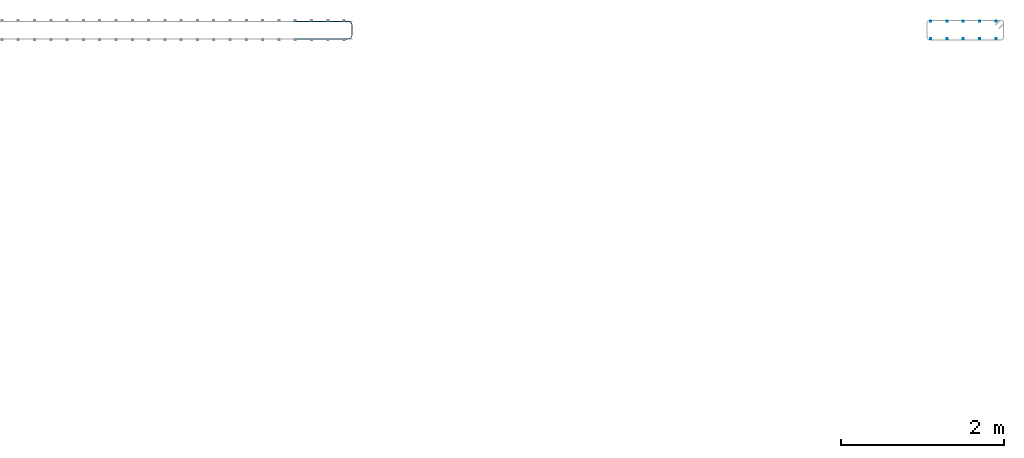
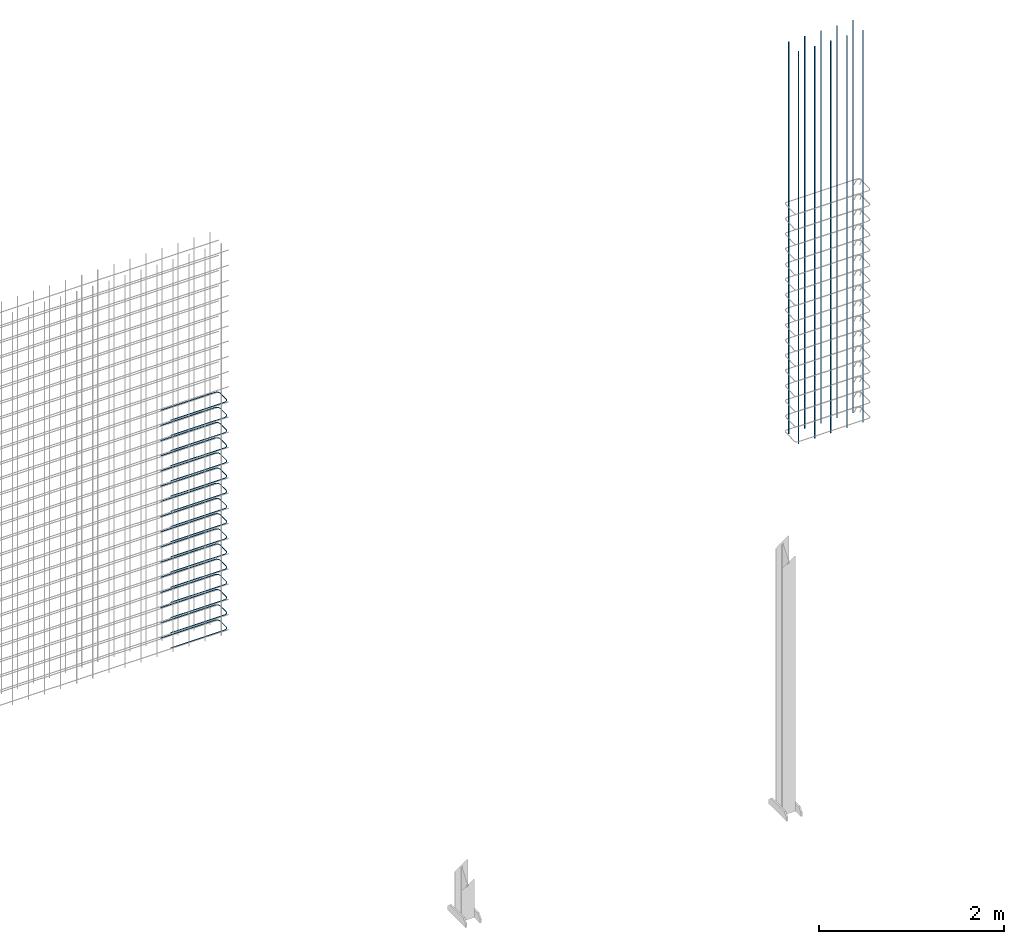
# One storey, part 4 of 4: 3 reinforcing bars.
"""IFC4X3_ADD2 building model written with IfcOpenShell, lengths in millimetres."""

from ifc_helpers import new_model, entity, si_unit, converted_unit, derived_unit, direction, frame, origin, place, context, subcontext, project, spatial, material, type_object, element, save


model = new_model("IFC4X3_ADD2")

# Units and contexts
model_context = context("Model", 3, precision=0.01, world=origin(), true_north=direction((6.123233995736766e-17, 1.0)))
plan_context = context("Plan", 3, precision=0.01, world=origin(), true_north=direction((6.123233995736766e-17, 1.0)))
body_context = subcontext(model_context, "Body", "Model", "MODEL_VIEW")
ifc_project = project(units=[si_unit("LENGTHUNIT", "METRE", prefix="MILLI"), converted_unit("PLANEANGLEUNIT", "DEGREE", entity("IfcPlaneAngleMeasure", 0.017453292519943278), si_unit("PLANEANGLEUNIT", "RADIAN"), dimensions=[0, 0, 0, 0, 0, 0, 0]), si_unit("AREAUNIT", "SQUARE_METRE"), si_unit("VOLUMEUNIT", "CUBIC_METRE"), derived_unit("THERMALTRANSMITTANCEUNIT", [(si_unit("MASSUNIT", "GRAM", prefix="KILO"), 1), (si_unit("THERMODYNAMICTEMPERATUREUNIT", "KELVIN"), -1), (si_unit("TIMEUNIT", "SECOND"), -3)]), derived_unit("USERDEFINED", [(si_unit("MASSUNIT", "GRAM", prefix="KILO"), 1), (si_unit("THERMODYNAMICTEMPERATUREUNIT", "KELVIN"), -1), (si_unit("TIMEUNIT", "SECOND"), -2)]), derived_unit("THERMALRESISTANCEUNIT", [(si_unit("MASSUNIT", "GRAM", prefix="KILO"), -1), (si_unit("TIMEUNIT", "SECOND"), 3), (si_unit("THERMODYNAMICTEMPERATUREUNIT", "KELVIN"), 1)]), si_unit("MASSUNIT", "GRAM", prefix="KILO"), derived_unit("MOMENTOFINERTIAUNIT", [(si_unit("LENGTHUNIT", "METRE"), 4)]), derived_unit("LINEARFORCEUNIT", [(si_unit("MASSUNIT", "GRAM", prefix="KILO"), 1), (si_unit("TIMEUNIT", "SECOND"), -2)]), derived_unit("WARPINGCONSTANTUNIT", [(si_unit("LENGTHUNIT", "METRE"), 6)]), si_unit("PRESSUREUNIT", "PASCAL"), derived_unit("MASSDENSITYUNIT", [(si_unit("MASSUNIT", "GRAM", prefix="KILO"), 1), (si_unit("LENGTHUNIT", "METRE"), -3)]), derived_unit("MODULUSOFELASTICITYUNIT", [(si_unit("MASSUNIT", "GRAM", prefix="KILO"), 1), (si_unit("TIMEUNIT", "SECOND"), -2), (si_unit("LENGTHUNIT", "METRE"), -1)]), derived_unit("THERMALEXPANSIONCOEFFICIENTUNIT", [(si_unit("THERMODYNAMICTEMPERATUREUNIT", "KELVIN"), -1)]), derived_unit("VAPORPERMEABILITYUNIT", [(si_unit("LENGTHUNIT", "METRE"), -1), (si_unit("TIMEUNIT", "SECOND"), 1)]), derived_unit("USERDEFINED", [(si_unit("MASSUNIT", "GRAM", prefix="KILO"), 1), (si_unit("TIMEUNIT", "SECOND"), -3), (si_unit("LENGTHUNIT", "METRE"), 3), (si_unit("ELECTRICCURRENTUNIT", "AMPERE"), -2)]), derived_unit("SPECIFICHEATCAPACITYUNIT", [(si_unit("THERMODYNAMICTEMPERATUREUNIT", "KELVIN"), -1), (si_unit("TIMEUNIT", "SECOND"), -2), (si_unit("LENGTHUNIT", "METRE"), 2)]), derived_unit("THERMALCONDUCTANCEUNIT", [(si_unit("MASSUNIT", "GRAM", prefix="KILO"), 1), (si_unit("THERMODYNAMICTEMPERATUREUNIT", "KELVIN"), -1), (si_unit("TIMEUNIT", "SECOND"), -3), (si_unit("LENGTHUNIT", "METRE"), 1)])], contexts=[model_context, plan_context])

# Site, building, storey
site_placement = place(None, origin())
site = spatial("IfcSite", under=ifc_project, at=site_placement, Name="Default", CompositionType="ELEMENT")
building_placement = place(site_placement, origin())
building = spatial("IfcBuilding", under=site, at=building_placement, Name="Complex structure", CompositionType="ELEMENT")
storey_placement = place(building_placement, frame((0.0, 0.0, -200.0)))
storey = spatial("IfcBuildingStorey", under=building, at=storey_placement, Name="Level -01", CompositionType="ELEMENT", Elevation=-200.0)

# Reinforcing bars
ifc_material = material(Name="Steel Rebar - B500A, B or C", Category="Unassigned")
reinforcing_bar_type_1 = type_object("IfcReinforcingBarType", Name="Rebar Bar:12mm", PredefinedType="NOTDEFINED")
reinforcing_bar_1_placement = place(storey_placement, origin())
element("IfcReinforcingBar", 1, at=reinforcing_bar_1_placement, inside=storey, type_object=reinforcing_bar_type_1, material=ifc_material, Name="Rebar Bar:12mm : Shape 00", ObjectType="Rebar Bar:12mm", context=body_context, shape_type="AdvancedSweptSolid", body=[
    entity("IfcSweptDiskSolid", entity("IfcCompositeCurve", [entity("IfcCompositeCurveSegment", "CONTINUOUS", True, entity("IfcPolyline", [entity("IfcCartesianPoint", [-1568.221550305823, 4630.133296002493, 9.0]), entity("IfcCartesianPoint", [-1568.221550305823, 4630.133296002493, 5175.0])]))], False), 6.0, None, 0.0, 1.0),
    entity("IfcSweptDiskSolid", entity("IfcCompositeCurve", [entity("IfcCompositeCurveSegment", "CONTINUOUS", True, entity("IfcPolyline", [entity("IfcCartesianPoint", [-1368.221550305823, 4630.133296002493, 9.0]), entity("IfcCartesianPoint", [-1368.221550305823, 4630.133296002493, 5175.0])]))], False), 6.0, None, 0.0, 1.0),
    entity("IfcSweptDiskSolid", entity("IfcCompositeCurve", [entity("IfcCompositeCurveSegment", "CONTINUOUS", True, entity("IfcPolyline", [entity("IfcCartesianPoint", [-1168.221550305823, 4630.133296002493, 9.0]), entity("IfcCartesianPoint", [-1168.221550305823, 4630.133296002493, 5175.0])]))], False), 6.0, None, 0.0, 1.0),
    entity("IfcSweptDiskSolid", entity("IfcCompositeCurve", [entity("IfcCompositeCurveSegment", "CONTINUOUS", True, entity("IfcPolyline", [entity("IfcCartesianPoint", [-968.221550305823, 4630.133296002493, 9.0]), entity("IfcCartesianPoint", [-968.221550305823, 4630.133296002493, 5175.0])]))], False), 6.0, None, 0.0, 1.0),
    entity("IfcSweptDiskSolid", entity("IfcCompositeCurve", [entity("IfcCompositeCurveSegment", "CONTINUOUS", True, entity("IfcPolyline", [entity("IfcCartesianPoint", [-768.221550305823, 4630.133296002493, 9.0]), entity("IfcCartesianPoint", [-768.221550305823, 4630.133296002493, 5175.0])]))], False), 6.0, None, 0.0, 1.0),
])
reinforcing_bar_2_placement = place(storey_placement, origin())
element("IfcReinforcingBar", 2, at=reinforcing_bar_2_placement, inside=storey, type_object=reinforcing_bar_type_1, material=ifc_material, Name="Rebar Bar:12mm : Shape 00", ObjectType="Rebar Bar:12mm", context=body_context, shape_type="AdvancedSweptSolid", body=[
    entity("IfcSweptDiskSolid", entity("IfcCompositeCurve", [entity("IfcCompositeCurveSegment", "CONTINUOUS", True, entity("IfcPolyline", [entity("IfcCartesianPoint", [-1568.2215503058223, 4844.133296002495, 9.0]), entity("IfcCartesianPoint", [-1568.2215503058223, 4844.133296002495, 5175.0])]))], False), 6.0, None, 0.0, 1.0),
    entity("IfcSweptDiskSolid", entity("IfcCompositeCurve", [entity("IfcCompositeCurveSegment", "CONTINUOUS", True, entity("IfcPolyline", [entity("IfcCartesianPoint", [-1368.2215503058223, 4844.133296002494, 9.0]), entity("IfcCartesianPoint", [-1368.2215503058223, 4844.133296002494, 5175.0])]))], False), 6.0, None, 0.0, 1.0),
    entity("IfcSweptDiskSolid", entity("IfcCompositeCurve", [entity("IfcCompositeCurveSegment", "CONTINUOUS", True, entity("IfcPolyline", [entity("IfcCartesianPoint", [-1168.2215503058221, 4844.133296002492, 9.0]), entity("IfcCartesianPoint", [-1168.2215503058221, 4844.133296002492, 5175.0])]))], False), 6.0, None, 0.0, 1.0),
    entity("IfcSweptDiskSolid", entity("IfcCompositeCurve", [entity("IfcCompositeCurveSegment", "CONTINUOUS", True, entity("IfcPolyline", [entity("IfcCartesianPoint", [-968.2215503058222, 4844.133296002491, 9.0]), entity("IfcCartesianPoint", [-968.2215503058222, 4844.133296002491, 5175.0])]))], False), 6.0, None, 0.0, 1.0),
    entity("IfcSweptDiskSolid", entity("IfcCompositeCurve", [entity("IfcCompositeCurveSegment", "CONTINUOUS", True, entity("IfcPolyline", [entity("IfcCartesianPoint", [-768.2215503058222, 4844.133296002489, 9.0]), entity("IfcCartesianPoint", [-768.2215503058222, 4844.133296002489, 5175.0])]))], False), 6.0, None, 0.0, 1.0),
])
reinforcing_bar_type_2 = type_object("IfcReinforcingBarType", Name="Rebar Bar:10mm", PredefinedType="NOTDEFINED")
reinforcing_bar_3_placement = place(storey_placement, origin())
ifc_direction_1 = entity("IfcDirection", [0.0, 0.0, -1.0])
ifc_direction_2 = entity("IfcDirection", [0.0, 0.0, -1.0])
ifc_direction_3 = entity("IfcDirection", [0.0, 0.0, -1.0])
ifc_direction_4 = entity("IfcDirection", [0.0, 0.0, -1.0])
ifc_direction_5 = entity("IfcDirection", [0.0, 0.0, -1.0])
ifc_direction_6 = entity("IfcDirection", [0.0, 0.0, -1.0])
ifc_direction_7 = entity("IfcDirection", [0.0, 0.0, -1.0])
ifc_direction_8 = entity("IfcDirection", [0.0, 0.0, -1.0])
ifc_direction_9 = entity("IfcDirection", [0.0, 0.0, -1.0])
ifc_direction_10 = entity("IfcDirection", [0.0, 0.0, -1.0])
ifc_direction_11 = entity("IfcDirection", [0.0, 0.0, -1.0])
ifc_direction_12 = entity("IfcDirection", [0.0, 0.0, -1.0])
ifc_direction_13 = entity("IfcDirection", [0.0, 0.0, -1.0])
ifc_direction_14 = entity("IfcDirection", [0.0, 0.0, -1.0])
ifc_direction_15 = entity("IfcDirection", [0.0, 0.0, -1.0])
ifc_direction_16 = entity("IfcDirection", [0.0, 0.0, -1.0])
element("IfcReinforcingBar", 3, at=reinforcing_bar_3_placement, inside=storey, type_object=reinforcing_bar_type_2, material=ifc_material, Name="Rebar Bar:10mm : Shape 21", ObjectType="Rebar Bar:10mm", context=body_context, shape_type="AdvancedSweptSolid", body=[
    entity("IfcSweptDiskSolid", entity("IfcCompositeCurve", [entity("IfcCompositeCurveSegment", "CONTINUOUS", True, entity("IfcPolyline", [entity("IfcCartesianPoint", [-9390.221550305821, 4844.133296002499, 3058.0]), entity("IfcCartesianPoint", [-8720.221550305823, 4844.133296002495, 3058.0])])), entity("IfcCompositeCurveSegment", "CONTINUOUS", True, entity("IfcTrimmedCurve", entity("IfcCircle", entity("IfcAxis2Placement3D", entity("IfcCartesianPoint", [-8720.221550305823, 4799.133296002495, 3058.0]), ifc_direction_1, entity("IfcDirection", [1.0, 0.0, 0.0])), 45.0), [entity("IfcParameterValue", 269.9999999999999)], [entity("IfcParameterValue", 360.00000000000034)], True, "PARAMETER")), entity("IfcCompositeCurveSegment", "CONTINUOUS", True, entity("IfcPolyline", [entity("IfcCartesianPoint", [-8675.221550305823, 4799.133296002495, 3058.0]), entity("IfcCartesianPoint", [-8675.221550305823, 4675.133296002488, 3058.0])])), entity("IfcCompositeCurveSegment", "CONTINUOUS", True, entity("IfcTrimmedCurve", entity("IfcCircle", entity("IfcAxis2Placement3D", entity("IfcCartesianPoint", [-8720.221550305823, 4675.133296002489, 3058.0]), ifc_direction_1, entity("IfcDirection", [0.0, -1.0, 0.0])), 45.0), [entity("IfcParameterValue", 269.9999999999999)], [entity("IfcParameterValue", 360.00000000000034)], True, "PARAMETER")), entity("IfcCompositeCurveSegment", "CONTINUOUS", True, entity("IfcPolyline", [entity("IfcCartesianPoint", [-8720.221550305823, 4630.133296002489, 3058.0]), entity("IfcCartesianPoint", [-9390.221550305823, 4630.133296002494, 3058.0])]))], False), 5.0, None, 0.0, 183.00000000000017),
    entity("IfcSweptDiskSolid", entity("IfcCompositeCurve", [entity("IfcCompositeCurveSegment", "CONTINUOUS", True, entity("IfcPolyline", [entity("IfcCartesianPoint", [-9390.221550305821, 4844.133296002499, 2858.0]), entity("IfcCartesianPoint", [-8720.221550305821, 4844.133296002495, 2858.0])])), entity("IfcCompositeCurveSegment", "CONTINUOUS", True, entity("IfcTrimmedCurve", entity("IfcCircle", entity("IfcAxis2Placement3D", entity("IfcCartesianPoint", [-8720.221550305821, 4799.133296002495, 2858.0]), ifc_direction_2, entity("IfcDirection", [1.0, 0.0, 0.0])), 45.0), [entity("IfcParameterValue", 269.9999999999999)], [entity("IfcParameterValue", 360.00000000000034)], True, "PARAMETER")), entity("IfcCompositeCurveSegment", "CONTINUOUS", True, entity("IfcPolyline", [entity("IfcCartesianPoint", [-8675.221550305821, 4799.133296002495, 2858.0]), entity("IfcCartesianPoint", [-8675.221550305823, 4675.133296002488, 2858.0])])), entity("IfcCompositeCurveSegment", "CONTINUOUS", True, entity("IfcTrimmedCurve", entity("IfcCircle", entity("IfcAxis2Placement3D", entity("IfcCartesianPoint", [-8720.221550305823, 4675.133296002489, 2858.0]), ifc_direction_2, entity("IfcDirection", [0.0, -1.0, 0.0])), 45.0), [entity("IfcParameterValue", 269.9999999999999)], [entity("IfcParameterValue", 360.00000000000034)], True, "PARAMETER")), entity("IfcCompositeCurveSegment", "CONTINUOUS", True, entity("IfcPolyline", [entity("IfcCartesianPoint", [-8720.221550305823, 4630.133296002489, 2858.0]), entity("IfcCartesianPoint", [-9390.221550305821, 4630.133296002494, 2858.0])]))], False), 5.0, None, 0.0, 183.00000000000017),
    entity("IfcSweptDiskSolid", entity("IfcCompositeCurve", [entity("IfcCompositeCurveSegment", "CONTINUOUS", True, entity("IfcPolyline", [entity("IfcCartesianPoint", [-9390.221550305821, 4844.133296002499, 2658.0]), entity("IfcCartesianPoint", [-8720.221550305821, 4844.133296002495, 2658.0])])), entity("IfcCompositeCurveSegment", "CONTINUOUS", True, entity("IfcTrimmedCurve", entity("IfcCircle", entity("IfcAxis2Placement3D", entity("IfcCartesianPoint", [-8720.221550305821, 4799.133296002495, 2658.0]), ifc_direction_3, entity("IfcDirection", [1.0, 0.0, 0.0])), 45.0), [entity("IfcParameterValue", 269.9999999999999)], [entity("IfcParameterValue", 360.00000000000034)], True, "PARAMETER")), entity("IfcCompositeCurveSegment", "CONTINUOUS", True, entity("IfcPolyline", [entity("IfcCartesianPoint", [-8675.221550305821, 4799.133296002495, 2658.0]), entity("IfcCartesianPoint", [-8675.221550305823, 4675.133296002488, 2658.0])])), entity("IfcCompositeCurveSegment", "CONTINUOUS", True, entity("IfcTrimmedCurve", entity("IfcCircle", entity("IfcAxis2Placement3D", entity("IfcCartesianPoint", [-8720.221550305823, 4675.133296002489, 2658.0]), ifc_direction_3, entity("IfcDirection", [0.0, -1.0, 0.0])), 45.0), [entity("IfcParameterValue", 269.9999999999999)], [entity("IfcParameterValue", 360.00000000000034)], True, "PARAMETER")), entity("IfcCompositeCurveSegment", "CONTINUOUS", True, entity("IfcPolyline", [entity("IfcCartesianPoint", [-8720.221550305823, 4630.133296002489, 2658.0]), entity("IfcCartesianPoint", [-9390.221550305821, 4630.133296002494, 2658.0])]))], False), 5.0, None, 0.0, 183.00000000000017),
    entity("IfcSweptDiskSolid", entity("IfcCompositeCurve", [entity("IfcCompositeCurveSegment", "CONTINUOUS", True, entity("IfcPolyline", [entity("IfcCartesianPoint", [-9390.22155030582, 4844.133296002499, 2458.0]), entity("IfcCartesianPoint", [-8720.22155030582, 4844.133296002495, 2458.0])])), entity("IfcCompositeCurveSegment", "CONTINUOUS", True, entity("IfcTrimmedCurve", entity("IfcCircle", entity("IfcAxis2Placement3D", entity("IfcCartesianPoint", [-8720.22155030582, 4799.133296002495, 2458.0]), ifc_direction_4, entity("IfcDirection", [1.0, 0.0, 0.0])), 45.0), [entity("IfcParameterValue", 269.9999999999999)], [entity("IfcParameterValue", 360.00000000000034)], True, "PARAMETER")), entity("IfcCompositeCurveSegment", "CONTINUOUS", True, entity("IfcPolyline", [entity("IfcCartesianPoint", [-8675.221550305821, 4799.133296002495, 2458.0]), entity("IfcCartesianPoint", [-8675.221550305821, 4675.133296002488, 2458.0])])), entity("IfcCompositeCurveSegment", "CONTINUOUS", True, entity("IfcTrimmedCurve", entity("IfcCircle", entity("IfcAxis2Placement3D", entity("IfcCartesianPoint", [-8720.221550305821, 4675.133296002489, 2458.0]), ifc_direction_4, entity("IfcDirection", [0.0, -1.0, 0.0])), 45.0), [entity("IfcParameterValue", 269.9999999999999)], [entity("IfcParameterValue", 360.00000000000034)], True, "PARAMETER")), entity("IfcCompositeCurveSegment", "CONTINUOUS", True, entity("IfcPolyline", [entity("IfcCartesianPoint", [-8720.221550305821, 4630.133296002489, 2458.0]), entity("IfcCartesianPoint", [-9390.221550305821, 4630.133296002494, 2458.0])]))], False), 5.0, None, 0.0, 183.00000000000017),
    entity("IfcSweptDiskSolid", entity("IfcCompositeCurve", [entity("IfcCompositeCurveSegment", "CONTINUOUS", True, entity("IfcPolyline", [entity("IfcCartesianPoint", [-9390.221550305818, 4844.133296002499, 2258.0]), entity("IfcCartesianPoint", [-8720.22155030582, 4844.133296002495, 2258.0])])), entity("IfcCompositeCurveSegment", "CONTINUOUS", True, entity("IfcTrimmedCurve", entity("IfcCircle", entity("IfcAxis2Placement3D", entity("IfcCartesianPoint", [-8720.22155030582, 4799.133296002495, 2258.0]), ifc_direction_5, entity("IfcDirection", [1.0, 0.0, 0.0])), 45.0), [entity("IfcParameterValue", 269.9999999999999)], [entity("IfcParameterValue", 360.00000000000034)], True, "PARAMETER")), entity("IfcCompositeCurveSegment", "CONTINUOUS", True, entity("IfcPolyline", [entity("IfcCartesianPoint", [-8675.22155030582, 4799.133296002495, 2258.0]), entity("IfcCartesianPoint", [-8675.221550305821, 4675.133296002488, 2258.0])])), entity("IfcCompositeCurveSegment", "CONTINUOUS", True, entity("IfcTrimmedCurve", entity("IfcCircle", entity("IfcAxis2Placement3D", entity("IfcCartesianPoint", [-8720.22155030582, 4675.133296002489, 2258.0]), ifc_direction_5, entity("IfcDirection", [0.0, -1.0, 0.0])), 45.0), [entity("IfcParameterValue", 269.9999999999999)], [entity("IfcParameterValue", 360.00000000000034)], True, "PARAMETER")), entity("IfcCompositeCurveSegment", "CONTINUOUS", True, entity("IfcPolyline", [entity("IfcCartesianPoint", [-8720.221550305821, 4630.133296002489, 2258.0]), entity("IfcCartesianPoint", [-9390.22155030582, 4630.133296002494, 2258.0])]))], False), 5.0, None, 0.0, 183.00000000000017),
    entity("IfcSweptDiskSolid", entity("IfcCompositeCurve", [entity("IfcCompositeCurveSegment", "CONTINUOUS", True, entity("IfcPolyline", [entity("IfcCartesianPoint", [-9390.221550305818, 4844.133296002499, 2058.0]), entity("IfcCartesianPoint", [-8720.22155030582, 4844.133296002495, 2058.0])])), entity("IfcCompositeCurveSegment", "CONTINUOUS", True, entity("IfcTrimmedCurve", entity("IfcCircle", entity("IfcAxis2Placement3D", entity("IfcCartesianPoint", [-8720.22155030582, 4799.133296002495, 2058.0]), ifc_direction_6, entity("IfcDirection", [1.0, 0.0, 0.0])), 45.0), [entity("IfcParameterValue", 269.9999999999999)], [entity("IfcParameterValue", 360.00000000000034)], True, "PARAMETER")), entity("IfcCompositeCurveSegment", "CONTINUOUS", True, entity("IfcPolyline", [entity("IfcCartesianPoint", [-8675.22155030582, 4799.133296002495, 2058.0]), entity("IfcCartesianPoint", [-8675.221550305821, 4675.133296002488, 2058.0])])), entity("IfcCompositeCurveSegment", "CONTINUOUS", True, entity("IfcTrimmedCurve", entity("IfcCircle", entity("IfcAxis2Placement3D", entity("IfcCartesianPoint", [-8720.22155030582, 4675.133296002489, 2058.0]), ifc_direction_6, entity("IfcDirection", [0.0, -1.0, 0.0])), 45.0), [entity("IfcParameterValue", 269.9999999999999)], [entity("IfcParameterValue", 360.00000000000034)], True, "PARAMETER")), entity("IfcCompositeCurveSegment", "CONTINUOUS", True, entity("IfcPolyline", [entity("IfcCartesianPoint", [-8720.221550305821, 4630.133296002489, 2058.0]), entity("IfcCartesianPoint", [-9390.22155030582, 4630.133296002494, 2058.0])]))], False), 5.0, None, 0.0, 183.00000000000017),
    entity("IfcSweptDiskSolid", entity("IfcCompositeCurve", [entity("IfcCompositeCurveSegment", "CONTINUOUS", True, entity("IfcPolyline", [entity("IfcCartesianPoint", [-9390.221550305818, 4844.133296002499, 1858.0]), entity("IfcCartesianPoint", [-8720.221550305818, 4844.133296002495, 1858.0])])), entity("IfcCompositeCurveSegment", "CONTINUOUS", True, entity("IfcTrimmedCurve", entity("IfcCircle", entity("IfcAxis2Placement3D", entity("IfcCartesianPoint", [-8720.221550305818, 4799.133296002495, 1858.0]), ifc_direction_7, entity("IfcDirection", [1.0, 0.0, 0.0])), 45.0), [entity("IfcParameterValue", 269.9999999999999)], [entity("IfcParameterValue", 360.00000000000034)], True, "PARAMETER")), entity("IfcCompositeCurveSegment", "CONTINUOUS", True, entity("IfcPolyline", [entity("IfcCartesianPoint", [-8675.221550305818, 4799.133296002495, 1858.0]), entity("IfcCartesianPoint", [-8675.22155030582, 4675.133296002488, 1858.0])])), entity("IfcCompositeCurveSegment", "CONTINUOUS", True, entity("IfcTrimmedCurve", entity("IfcCircle", entity("IfcAxis2Placement3D", entity("IfcCartesianPoint", [-8720.22155030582, 4675.133296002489, 1858.0]), ifc_direction_7, entity("IfcDirection", [0.0, -1.0, 0.0])), 45.0), [entity("IfcParameterValue", 269.9999999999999)], [entity("IfcParameterValue", 360.00000000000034)], True, "PARAMETER")), entity("IfcCompositeCurveSegment", "CONTINUOUS", True, entity("IfcPolyline", [entity("IfcCartesianPoint", [-8720.22155030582, 4630.133296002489, 1858.0]), entity("IfcCartesianPoint", [-9390.221550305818, 4630.133296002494, 1858.0])]))], False), 5.0, None, 0.0, 183.00000000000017),
    entity("IfcSweptDiskSolid", entity("IfcCompositeCurve", [entity("IfcCompositeCurveSegment", "CONTINUOUS", True, entity("IfcPolyline", [entity("IfcCartesianPoint", [-9390.221550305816, 4844.133296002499, 1658.0]), entity("IfcCartesianPoint", [-8720.221550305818, 4844.133296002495, 1658.0])])), entity("IfcCompositeCurveSegment", "CONTINUOUS", True, entity("IfcTrimmedCurve", entity("IfcCircle", entity("IfcAxis2Placement3D", entity("IfcCartesianPoint", [-8720.221550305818, 4799.133296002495, 1658.0]), ifc_direction_8, entity("IfcDirection", [1.0, 0.0, 0.0])), 45.0), [entity("IfcParameterValue", 269.9999999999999)], [entity("IfcParameterValue", 360.00000000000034)], True, "PARAMETER")), entity("IfcCompositeCurveSegment", "CONTINUOUS", True, entity("IfcPolyline", [entity("IfcCartesianPoint", [-8675.221550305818, 4799.133296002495, 1658.0]), entity("IfcCartesianPoint", [-8675.221550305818, 4675.133296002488, 1658.0])])), entity("IfcCompositeCurveSegment", "CONTINUOUS", True, entity("IfcTrimmedCurve", entity("IfcCircle", entity("IfcAxis2Placement3D", entity("IfcCartesianPoint", [-8720.221550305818, 4675.133296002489, 1658.0]), ifc_direction_8, entity("IfcDirection", [0.0, -1.0, 0.0])), 45.0), [entity("IfcParameterValue", 269.9999999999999)], [entity("IfcParameterValue", 360.00000000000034)], True, "PARAMETER")), entity("IfcCompositeCurveSegment", "CONTINUOUS", True, entity("IfcPolyline", [entity("IfcCartesianPoint", [-8720.22155030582, 4630.133296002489, 1658.0]), entity("IfcCartesianPoint", [-9390.221550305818, 4630.133296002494, 1658.0])]))], False), 5.0, None, 0.0, 183.00000000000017),
    entity("IfcSweptDiskSolid", entity("IfcCompositeCurve", [entity("IfcCompositeCurveSegment", "CONTINUOUS", True, entity("IfcPolyline", [entity("IfcCartesianPoint", [-9390.221550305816, 4844.133296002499, 1458.0]), entity("IfcCartesianPoint", [-8720.221550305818, 4844.133296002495, 1458.0])])), entity("IfcCompositeCurveSegment", "CONTINUOUS", True, entity("IfcTrimmedCurve", entity("IfcCircle", entity("IfcAxis2Placement3D", entity("IfcCartesianPoint", [-8720.221550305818, 4799.133296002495, 1458.0]), ifc_direction_9, entity("IfcDirection", [1.0, 0.0, 0.0])), 45.0), [entity("IfcParameterValue", 269.9999999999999)], [entity("IfcParameterValue", 360.00000000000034)], True, "PARAMETER")), entity("IfcCompositeCurveSegment", "CONTINUOUS", True, entity("IfcPolyline", [entity("IfcCartesianPoint", [-8675.221550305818, 4799.133296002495, 1458.0]), entity("IfcCartesianPoint", [-8675.221550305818, 4675.133296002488, 1458.0])])), entity("IfcCompositeCurveSegment", "CONTINUOUS", True, entity("IfcTrimmedCurve", entity("IfcCircle", entity("IfcAxis2Placement3D", entity("IfcCartesianPoint", [-8720.221550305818, 4675.133296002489, 1458.0]), ifc_direction_9, entity("IfcDirection", [0.0, -1.0, 0.0])), 45.0), [entity("IfcParameterValue", 269.9999999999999)], [entity("IfcParameterValue", 360.00000000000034)], True, "PARAMETER")), entity("IfcCompositeCurveSegment", "CONTINUOUS", True, entity("IfcPolyline", [entity("IfcCartesianPoint", [-8720.22155030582, 4630.133296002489, 1458.0]), entity("IfcCartesianPoint", [-9390.221550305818, 4630.133296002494, 1458.0])]))], False), 5.0, None, 0.0, 183.00000000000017),
    entity("IfcSweptDiskSolid", entity("IfcCompositeCurve", [entity("IfcCompositeCurveSegment", "CONTINUOUS", True, entity("IfcPolyline", [entity("IfcCartesianPoint", [-9390.221550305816, 4844.133296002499, 1258.0]), entity("IfcCartesianPoint", [-8720.221550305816, 4844.133296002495, 1258.0])])), entity("IfcCompositeCurveSegment", "CONTINUOUS", True, entity("IfcTrimmedCurve", entity("IfcCircle", entity("IfcAxis2Placement3D", entity("IfcCartesianPoint", [-8720.221550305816, 4799.133296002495, 1258.0]), ifc_direction_10, entity("IfcDirection", [1.0, 0.0, 0.0])), 45.0), [entity("IfcParameterValue", 269.9999999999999)], [entity("IfcParameterValue", 360.00000000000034)], True, "PARAMETER")), entity("IfcCompositeCurveSegment", "CONTINUOUS", True, entity("IfcPolyline", [entity("IfcCartesianPoint", [-8675.221550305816, 4799.133296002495, 1258.0]), entity("IfcCartesianPoint", [-8675.221550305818, 4675.133296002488, 1258.0])])), entity("IfcCompositeCurveSegment", "CONTINUOUS", True, entity("IfcTrimmedCurve", entity("IfcCircle", entity("IfcAxis2Placement3D", entity("IfcCartesianPoint", [-8720.221550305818, 4675.133296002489, 1258.0]), ifc_direction_10, entity("IfcDirection", [0.0, -1.0, 0.0])), 45.0), [entity("IfcParameterValue", 269.9999999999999)], [entity("IfcParameterValue", 360.00000000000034)], True, "PARAMETER")), entity("IfcCompositeCurveSegment", "CONTINUOUS", True, entity("IfcPolyline", [entity("IfcCartesianPoint", [-8720.221550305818, 4630.133296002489, 1258.0]), entity("IfcCartesianPoint", [-9390.221550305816, 4630.133296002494, 1258.0])]))], False), 5.0, None, 0.0, 183.00000000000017),
    entity("IfcSweptDiskSolid", entity("IfcCompositeCurve", [entity("IfcCompositeCurveSegment", "CONTINUOUS", True, entity("IfcPolyline", [entity("IfcCartesianPoint", [-9390.221550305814, 4844.133296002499, 1058.0]), entity("IfcCartesianPoint", [-8720.221550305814, 4844.133296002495, 1058.0])])), entity("IfcCompositeCurveSegment", "CONTINUOUS", True, entity("IfcTrimmedCurve", entity("IfcCircle", entity("IfcAxis2Placement3D", entity("IfcCartesianPoint", [-8720.221550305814, 4799.133296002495, 1058.0]), ifc_direction_11, entity("IfcDirection", [1.0, 0.0, 0.0])), 45.0), [entity("IfcParameterValue", 269.9999999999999)], [entity("IfcParameterValue", 360.00000000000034)], True, "PARAMETER")), entity("IfcCompositeCurveSegment", "CONTINUOUS", True, entity("IfcPolyline", [entity("IfcCartesianPoint", [-8675.221550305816, 4799.133296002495, 1058.0]), entity("IfcCartesianPoint", [-8675.221550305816, 4675.133296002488, 1058.0])])), entity("IfcCompositeCurveSegment", "CONTINUOUS", True, entity("IfcTrimmedCurve", entity("IfcCircle", entity("IfcAxis2Placement3D", entity("IfcCartesianPoint", [-8720.221550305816, 4675.133296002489, 1058.0]), ifc_direction_11, entity("IfcDirection", [0.0, -1.0, 0.0])), 45.0), [entity("IfcParameterValue", 269.9999999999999)], [entity("IfcParameterValue", 360.00000000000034)], True, "PARAMETER")), entity("IfcCompositeCurveSegment", "CONTINUOUS", True, entity("IfcPolyline", [entity("IfcCartesianPoint", [-8720.221550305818, 4630.133296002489, 1058.0]), entity("IfcCartesianPoint", [-9390.221550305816, 4630.133296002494, 1058.0])]))], False), 5.0, None, 0.0, 183.00000000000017),
    entity("IfcSweptDiskSolid", entity("IfcCompositeCurve", [entity("IfcCompositeCurveSegment", "CONTINUOUS", True, entity("IfcPolyline", [entity("IfcCartesianPoint", [-9390.221550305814, 4844.133296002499, 858.0]), entity("IfcCartesianPoint", [-8720.221550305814, 4844.133296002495, 858.0])])), entity("IfcCompositeCurveSegment", "CONTINUOUS", True, entity("IfcTrimmedCurve", entity("IfcCircle", entity("IfcAxis2Placement3D", entity("IfcCartesianPoint", [-8720.221550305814, 4799.133296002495, 858.0]), ifc_direction_12, entity("IfcDirection", [1.0, 0.0, 0.0])), 45.0), [entity("IfcParameterValue", 269.9999999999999)], [entity("IfcParameterValue", 360.00000000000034)], True, "PARAMETER")), entity("IfcCompositeCurveSegment", "CONTINUOUS", True, entity("IfcPolyline", [entity("IfcCartesianPoint", [-8675.221550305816, 4799.133296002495, 858.0]), entity("IfcCartesianPoint", [-8675.221550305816, 4675.133296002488, 858.0])])), entity("IfcCompositeCurveSegment", "CONTINUOUS", True, entity("IfcTrimmedCurve", entity("IfcCircle", entity("IfcAxis2Placement3D", entity("IfcCartesianPoint", [-8720.221550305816, 4675.133296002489, 858.0]), ifc_direction_12, entity("IfcDirection", [0.0, -1.0, 0.0])), 45.0), [entity("IfcParameterValue", 269.9999999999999)], [entity("IfcParameterValue", 360.00000000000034)], True, "PARAMETER")), entity("IfcCompositeCurveSegment", "CONTINUOUS", True, entity("IfcPolyline", [entity("IfcCartesianPoint", [-8720.221550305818, 4630.133296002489, 858.0]), entity("IfcCartesianPoint", [-9390.221550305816, 4630.133296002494, 858.0])]))], False), 5.0, None, 0.0, 183.00000000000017),
    entity("IfcSweptDiskSolid", entity("IfcCompositeCurve", [entity("IfcCompositeCurveSegment", "CONTINUOUS", True, entity("IfcPolyline", [entity("IfcCartesianPoint", [-9390.221550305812, 4844.133296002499, 658.0]), entity("IfcCartesianPoint", [-8720.221550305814, 4844.133296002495, 658.0])])), entity("IfcCompositeCurveSegment", "CONTINUOUS", True, entity("IfcTrimmedCurve", entity("IfcCircle", entity("IfcAxis2Placement3D", entity("IfcCartesianPoint", [-8720.221550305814, 4799.133296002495, 658.0]), ifc_direction_13, entity("IfcDirection", [1.0, 0.0, 0.0])), 45.0), [entity("IfcParameterValue", 269.9999999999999)], [entity("IfcParameterValue", 360.00000000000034)], True, "PARAMETER")), entity("IfcCompositeCurveSegment", "CONTINUOUS", True, entity("IfcPolyline", [entity("IfcCartesianPoint", [-8675.221550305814, 4799.133296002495, 658.0]), entity("IfcCartesianPoint", [-8675.221550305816, 4675.133296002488, 658.0])])), entity("IfcCompositeCurveSegment", "CONTINUOUS", True, entity("IfcTrimmedCurve", entity("IfcCircle", entity("IfcAxis2Placement3D", entity("IfcCartesianPoint", [-8720.221550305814, 4675.133296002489, 658.0]), ifc_direction_13, entity("IfcDirection", [0.0, -1.0, 0.0])), 45.0), [entity("IfcParameterValue", 269.9999999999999)], [entity("IfcParameterValue", 360.00000000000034)], True, "PARAMETER")), entity("IfcCompositeCurveSegment", "CONTINUOUS", True, entity("IfcPolyline", [entity("IfcCartesianPoint", [-8720.221550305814, 4630.133296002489, 658.0]), entity("IfcCartesianPoint", [-9390.221550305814, 4630.133296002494, 658.0])]))], False), 5.0, None, 0.0, 183.00000000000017),
    entity("IfcSweptDiskSolid", entity("IfcCompositeCurve", [entity("IfcCompositeCurveSegment", "CONTINUOUS", True, entity("IfcPolyline", [entity("IfcCartesianPoint", [-9390.221550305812, 4844.133296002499, 458.0]), entity("IfcCartesianPoint", [-8720.221550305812, 4844.133296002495, 458.0])])), entity("IfcCompositeCurveSegment", "CONTINUOUS", True, entity("IfcTrimmedCurve", entity("IfcCircle", entity("IfcAxis2Placement3D", entity("IfcCartesianPoint", [-8720.221550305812, 4799.133296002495, 458.0]), ifc_direction_14, entity("IfcDirection", [1.0, 0.0, 0.0])), 45.0), [entity("IfcParameterValue", 269.9999999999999)], [entity("IfcParameterValue", 360.00000000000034)], True, "PARAMETER")), entity("IfcCompositeCurveSegment", "CONTINUOUS", True, entity("IfcPolyline", [entity("IfcCartesianPoint", [-8675.221550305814, 4799.133296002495, 458.0]), entity("IfcCartesianPoint", [-8675.221550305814, 4675.133296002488, 458.0])])), entity("IfcCompositeCurveSegment", "CONTINUOUS", True, entity("IfcTrimmedCurve", entity("IfcCircle", entity("IfcAxis2Placement3D", entity("IfcCartesianPoint", [-8720.221550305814, 4675.133296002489, 458.0]), ifc_direction_14, entity("IfcDirection", [0.0, -1.0, 0.0])), 45.0), [entity("IfcParameterValue", 269.9999999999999)], [entity("IfcParameterValue", 360.00000000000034)], True, "PARAMETER")), entity("IfcCompositeCurveSegment", "CONTINUOUS", True, entity("IfcPolyline", [entity("IfcCartesianPoint", [-8720.221550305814, 4630.133296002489, 458.0]), entity("IfcCartesianPoint", [-9390.221550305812, 4630.133296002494, 458.0])]))], False), 5.0, None, 0.0, 183.00000000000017),
    entity("IfcSweptDiskSolid", entity("IfcCompositeCurve", [entity("IfcCompositeCurveSegment", "CONTINUOUS", True, entity("IfcPolyline", [entity("IfcCartesianPoint", [-9390.221550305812, 4844.133296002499, 258.0]), entity("IfcCartesianPoint", [-8720.221550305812, 4844.133296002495, 258.0])])), entity("IfcCompositeCurveSegment", "CONTINUOUS", True, entity("IfcTrimmedCurve", entity("IfcCircle", entity("IfcAxis2Placement3D", entity("IfcCartesianPoint", [-8720.221550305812, 4799.133296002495, 258.0]), ifc_direction_15, entity("IfcDirection", [1.0, 0.0, 0.0])), 45.0), [entity("IfcParameterValue", 269.9999999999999)], [entity("IfcParameterValue", 360.00000000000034)], True, "PARAMETER")), entity("IfcCompositeCurveSegment", "CONTINUOUS", True, entity("IfcPolyline", [entity("IfcCartesianPoint", [-8675.221550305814, 4799.133296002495, 258.0]), entity("IfcCartesianPoint", [-8675.221550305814, 4675.133296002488, 258.0])])), entity("IfcCompositeCurveSegment", "CONTINUOUS", True, entity("IfcTrimmedCurve", entity("IfcCircle", entity("IfcAxis2Placement3D", entity("IfcCartesianPoint", [-8720.221550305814, 4675.133296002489, 258.0]), ifc_direction_15, entity("IfcDirection", [0.0, -1.0, 0.0])), 45.0), [entity("IfcParameterValue", 269.9999999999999)], [entity("IfcParameterValue", 360.00000000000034)], True, "PARAMETER")), entity("IfcCompositeCurveSegment", "CONTINUOUS", True, entity("IfcPolyline", [entity("IfcCartesianPoint", [-8720.221550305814, 4630.133296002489, 258.0]), entity("IfcCartesianPoint", [-9390.221550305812, 4630.133296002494, 258.0])]))], False), 5.0, None, 0.0, 183.00000000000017),
    entity("IfcSweptDiskSolid", entity("IfcCompositeCurve", [entity("IfcCompositeCurveSegment", "CONTINUOUS", True, entity("IfcPolyline", [entity("IfcCartesianPoint", [-9390.22155030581, 4844.133296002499, 58.0]), entity("IfcCartesianPoint", [-8720.221550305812, 4844.133296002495, 58.0])])), entity("IfcCompositeCurveSegment", "CONTINUOUS", True, entity("IfcTrimmedCurve", entity("IfcCircle", entity("IfcAxis2Placement3D", entity("IfcCartesianPoint", [-8720.221550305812, 4799.133296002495, 58.0]), ifc_direction_16, entity("IfcDirection", [1.0, 0.0, 0.0])), 45.0), [entity("IfcParameterValue", 269.9999999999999)], [entity("IfcParameterValue", 360.00000000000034)], True, "PARAMETER")), entity("IfcCompositeCurveSegment", "CONTINUOUS", True, entity("IfcPolyline", [entity("IfcCartesianPoint", [-8675.221550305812, 4799.133296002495, 58.0]), entity("IfcCartesianPoint", [-8675.221550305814, 4675.133296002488, 58.0])])), entity("IfcCompositeCurveSegment", "CONTINUOUS", True, entity("IfcTrimmedCurve", entity("IfcCircle", entity("IfcAxis2Placement3D", entity("IfcCartesianPoint", [-8720.221550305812, 4675.133296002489, 58.0]), ifc_direction_16, entity("IfcDirection", [0.0, -1.0, 0.0])), 45.0), [entity("IfcParameterValue", 269.9999999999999)], [entity("IfcParameterValue", 360.00000000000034)], True, "PARAMETER")), entity("IfcCompositeCurveSegment", "CONTINUOUS", True, entity("IfcPolyline", [entity("IfcCartesianPoint", [-8720.221550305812, 4630.133296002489, 58.0]), entity("IfcCartesianPoint", [-9390.221550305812, 4630.133296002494, 58.0])]))], False), 5.0, None, 0.0, 183.00000000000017),
])

save(model, "model.ifc")
